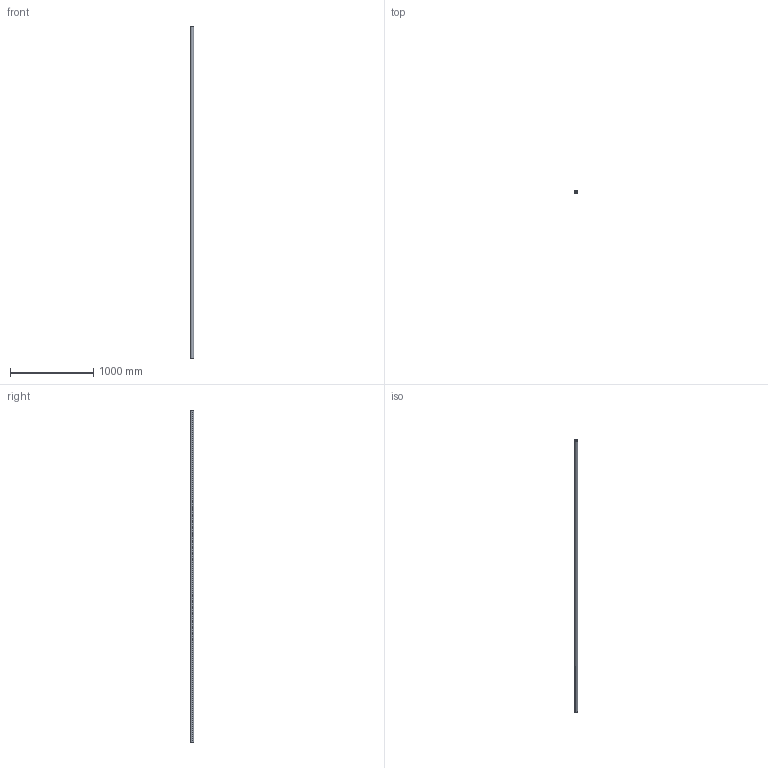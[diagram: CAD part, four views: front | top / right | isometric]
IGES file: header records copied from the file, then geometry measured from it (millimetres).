
Start section: SolidWorks IGES file using analytic representation for surfaces
Global section: file name: C:\Users\IanO\Desktop\L1771_v2\L1771.40_v2\L1771.40_v2_20230705_IGES\L1771.40-4000.igs; native system: SolidWorks 2019; preprocessor: SolidWorks 2019; author: IanO; date: 230705.162235; units: millimetre
Bounding box: 40 x 40 x 4000 mm (x, y, z)
Surface area: 855795 mm2 (no closed solid volume)
Topology: 0 solids, 0 shells, 6 faces, 272 edges, 272 vertices
Faces by surface type: revolution 4, bspline 2
